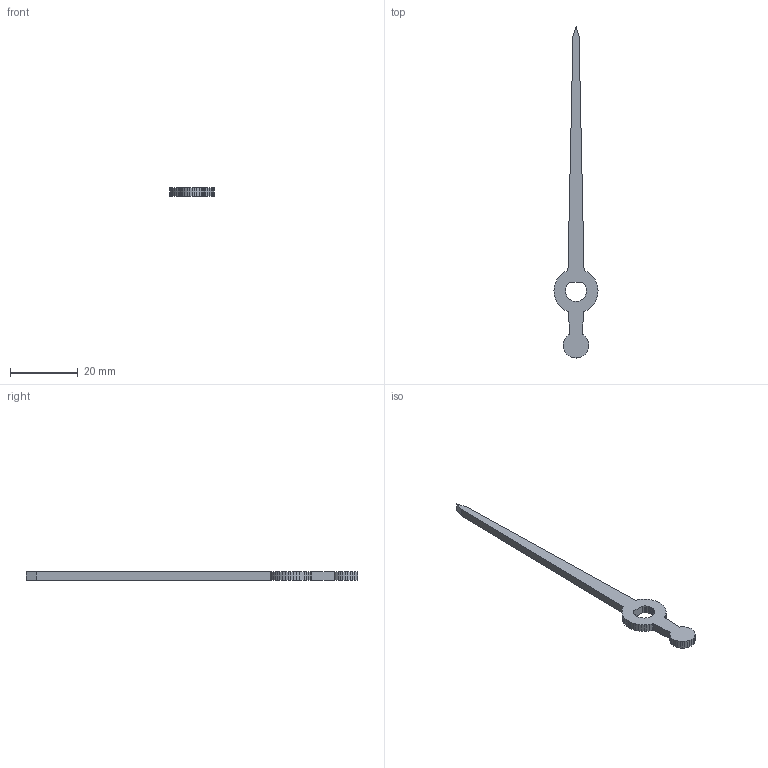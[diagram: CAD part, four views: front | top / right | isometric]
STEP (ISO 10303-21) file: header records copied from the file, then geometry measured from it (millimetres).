
FILE_DESCRIPTION(('Open CASCADE Model'),'2;1');
FILE_NAME('Open CASCADE Shape Model','2026-10-05T13:03:08',('Author'),( 'Open CASCADE'),'Open CASCADE STEP processor 7.9','Open CASCADE 7.9' ,'Unknown');
FILE_SCHEMA(('AUTOMOTIVE_DESIGN { 1 0 10303 214 1 1 1 1 }'));
Length unit declared in the file: millimetre
Products named in the file (1): Open CASCADE STEP translator 7.9 23
Bounding box: 13 x 97.75 x 2.4 mm (x, y, z)
Volume: 959.4 mm3; surface area: 1345.9 mm2
Topology: 1 solids, 1 shells, 113 faces, 333 edges, 222 vertices
Faces by surface type: plane 113
Entity records: 8030 total; most frequent: CARTESIAN_POINT 1335, DIRECTION 1227, LINE 999, VECTOR 999, ORIENTED_EDGE 666, PCURVE 666, DEFINITIONAL_REPRESENTATION 666, EDGE_CURVE 333
